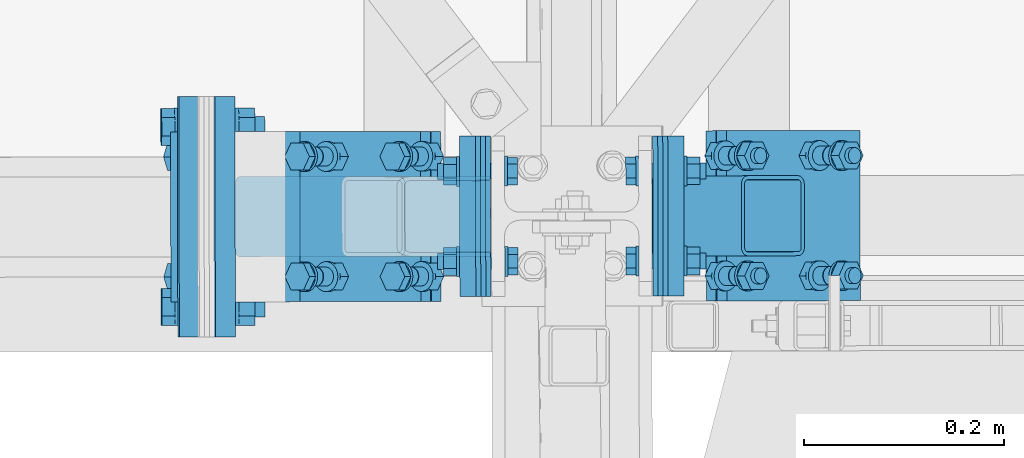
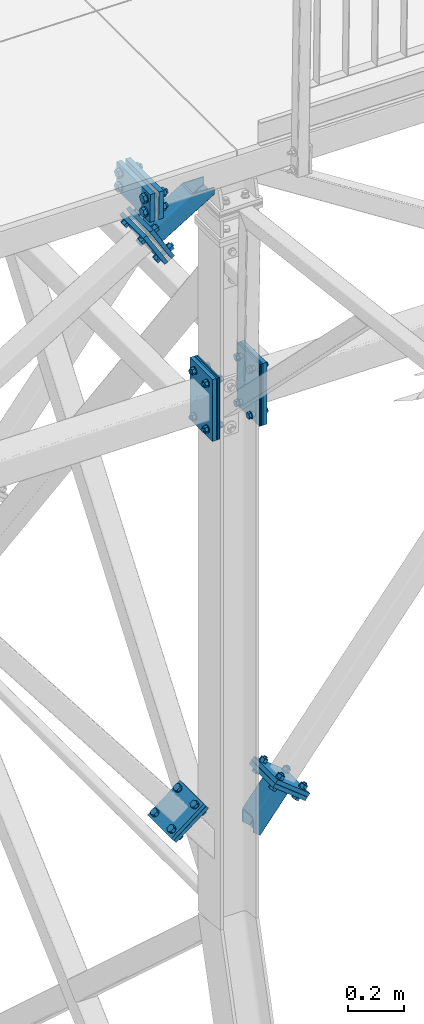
# One storey, part 103 of 169: 18 discrete accessories, 6 mechanical fasteners, 12 elements without a shape of their own.
"""IFC2X3 building model written with IfcOpenShell, lengths in millimetres."""

from ifc_helpers import new_model, si_unit, frame, origin_with_axes, origin_2d_with_axis, place, context, subcontext, project, spatial, polyline, rectangle, hollow_rectangle, circle, outline, extrude, boolean, clip, halfspace, source, transform, mapped, material, type_object, element, aggregate, save


model = new_model("IFC2X3")

# Units and contexts
model_context = context("Model", 3, precision=1e-05, world=origin_with_axes())
body_context = subcontext(model_context, "Body", "Model", "MODEL_VIEW")
ifc_project = project(units=[si_unit("LENGTHUNIT", "METRE", prefix="MILLI"), si_unit("AREAUNIT", "SQUARE_METRE"), si_unit("VOLUMEUNIT", "CUBIC_METRE"), si_unit("MASSUNIT", "GRAM", prefix="KILO"), si_unit("TIMEUNIT", "SECOND"), si_unit("PLANEANGLEUNIT", "RADIAN"), si_unit("SOLIDANGLEUNIT", "STERADIAN"), si_unit("THERMODYNAMICTEMPERATUREUNIT", "DEGREE_CELSIUS"), si_unit("LUMINOUSINTENSITYUNIT", "LUMEN")], contexts=[model_context])

# Site, building, storey
site_placement = place(None, origin_with_axes())
site = spatial("IfcSite", under=ifc_project, at=site_placement, Name="Undefined", CompositionType="ELEMENT")
building_placement = place(site_placement, origin_with_axes())
building = spatial("IfcBuilding", under=site, at=building_placement, Name="Undefined", CompositionType="ELEMENT")
storey_placement = place(building_placement, origin_with_axes())
storey = spatial("IfcBuildingStorey", under=building, at=storey_placement, Name="Undefined", CompositionType="ELEMENT", Elevation=0.0)

# Assembly, discrete accessory
assembly_1_placement = place(storey_placement, origin_with_axes())
assembly_1 = element("IfcElementAssembly", 1, at=assembly_1_placement, inside=storey, Name="Steel Assembly", AssemblyPlace="NOTDEFINED", PredefinedType="RIGID_FRAME")
ifc_material_1 = material(Name="STEEL/S355")
discrete_accessory_type_1 = type_object("IfcDiscreteAccessoryType", Name="BLACHA")
discrete_accessory_1_placement = place(assembly_1_placement, frame((6206.63601539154, 196.588699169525, 12874.9151454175), z_axis=(0.99999826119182, 0.0018648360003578, 1.65999988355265e-07), x_axis=(0.00186484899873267, -0.999998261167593, 4.28757666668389e-08)))
discrete_accessory_1 = element("IfcDiscreteAccessory", 2, at=discrete_accessory_1_placement, type_object=discrete_accessory_type_1, material=ifc_material_1, Name="BLACHA", ObjectType="BL5*270", context=body_context, shape_type="SweptSolid", body=[
    extrude(outline(polyline([(1.22781784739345e-10, 135.000000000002), (159.999999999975, 134.999999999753), (159.99999999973, -135.000000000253), (-1.23236532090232e-10, -135.000000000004), (1.22781784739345e-10, 135.000000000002)])), frame((6.80888809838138e-19, -2.87858853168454e-21, -2.49999999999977), z_axis=(0.0, 0.0, 1.0), x_axis=(1.0, 0.0, 0.0)), (0.0, 0.0, 1.0), 5.0),
])
aggregate(assembly_1, [discrete_accessory_1])

assembly_2_placement = place(storey_placement, origin_with_axes())
assembly_2 = element("IfcElementAssembly", 3, at=assembly_2_placement, inside=storey, Name="Steel Assembly", AssemblyPlace="NOTDEFINED", PredefinedType="RIGID_FRAME")
discrete_accessory_2_placement = place(assembly_2_placement, frame((6211.6360066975, 196.598023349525, 12874.9151462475), z_axis=(0.99999826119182, 0.0018648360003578, 1.65999988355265e-07), x_axis=(0.00186484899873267, -0.999998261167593, 4.28757666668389e-08)))
discrete_accessory_2 = element("IfcDiscreteAccessory", 4, at=discrete_accessory_2_placement, type_object=discrete_accessory_type_1, material=ifc_material_1, Name="BLACHA", ObjectType="BL5*270", context=body_context, shape_type="SweptSolid", body=[
    extrude(outline(polyline([(1.22781784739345e-10, 135.000000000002), (159.999999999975, 134.999999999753), (159.99999999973, -135.000000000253), (-1.23236532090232e-10, -135.000000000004), (1.22781784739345e-10, 135.000000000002)])), frame((6.80888809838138e-19, -2.87858853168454e-21, -2.49999999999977), z_axis=(0.0, 0.0, 1.0), x_axis=(1.0, 0.0, 0.0)), (0.0, 0.0, 1.0), 5.0),
])
aggregate(assembly_2, [discrete_accessory_2])

assembly_3_placement = place(storey_placement, origin_with_axes())
assembly_3 = element("IfcElementAssembly", 5, at=assembly_3_placement, inside=storey, Name="Steel Assembly", AssemblyPlace="NOTDEFINED", PredefinedType="RIGID_FRAME")
discrete_accessory_3_placement = place(assembly_3_placement, frame((6216.63599800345, 196.607347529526, 12874.9151470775), z_axis=(0.99999826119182, 0.0018648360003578, 1.65999988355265e-07), x_axis=(0.00186484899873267, -0.999998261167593, 4.28757666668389e-08)))
discrete_accessory_3 = element("IfcDiscreteAccessory", 6, at=discrete_accessory_3_placement, type_object=discrete_accessory_type_1, material=ifc_material_1, Name="BLACHA", ObjectType="BL5*270", context=body_context, shape_type="SweptSolid", body=[
    extrude(outline(polyline([(1.22781784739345e-10, 135.000000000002), (159.999999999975, 134.999999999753), (159.99999999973, -135.000000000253), (-1.23236532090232e-10, -135.000000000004), (1.22781784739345e-10, 135.000000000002)])), frame((6.80888809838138e-19, -2.87858853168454e-21, -2.49999999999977), z_axis=(0.0, 0.0, 1.0), x_axis=(1.0, 0.0, 0.0)), (0.0, 0.0, 1.0), 5.0),
])
aggregate(assembly_3, [discrete_accessory_3])

assembly_4_placement = place(storey_placement, origin_with_axes())
assembly_4 = element("IfcElementAssembly", 7, at=assembly_4_placement, inside=storey, Name="Steel Assembly", AssemblyPlace="NOTDEFINED", PredefinedType="RIGID_FRAME")
discrete_accessory_4_placement = place(assembly_4_placement, frame((6227.13597974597, 196.626928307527, 12874.9151488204), z_axis=(0.99999826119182, 0.0018648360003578, 1.65999988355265e-07), x_axis=(0.00186484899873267, -0.999998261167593, 4.28757666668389e-08)))
discrete_accessory_4 = element("IfcDiscreteAccessory", 8, at=discrete_accessory_4_placement, type_object=discrete_accessory_type_1, material=ifc_material_1, Name="BLACHA", ObjectType="BL16*270", context=body_context, shape_type="SweptSolid", body=[
    extrude(outline(polyline([(1.22781784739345e-10, 135.000000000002), (159.999999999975, 134.999999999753), (159.99999999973, -135.000000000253), (-1.23236532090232e-10, -135.000000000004), (1.22781784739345e-10, 135.000000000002)])), frame((4.54778590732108e-13, 0.0, -8.0), z_axis=(0.0, 0.0, 1.0), x_axis=(1.0, 0.0, 0.0)), (0.0, 0.0, 1.0), 16.0),
])

assembly_5_placement = place(storey_placement, origin_with_axes())
assembly_5 = element("IfcElementAssembly", 9, at=assembly_5_placement, inside=storey, Name="Steel Assembly", AssemblyPlace="NOTDEFINED", PredefinedType="RIGID_FRAME")
discrete_accessory_5_placement = place(assembly_5_placement, frame((6406.34479713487, 116.96105180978, 11065.3972304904), z_axis=(0.00186484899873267, -0.999998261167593, 4.28757666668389e-08), x_axis=(-0.784458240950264, -0.00146288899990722, 0.620179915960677)))
discrete_accessory_5 = element("IfcDiscreteAccessory", 10, at=discrete_accessory_5_placement, type_object=discrete_accessory_type_1, material=ifc_material_1, Name="BLACHA", ObjectType="BL16*170", context=body_context, shape_type="SweptSolid", body=[
    extrude(rectangle(XDim=16.0, YDim=170.0, at=origin_2d_with_axis()), frame((169.999999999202, 0.0, -3.62691994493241e-12), z_axis=(-1.0, -3.46944695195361e-18, -1.38777878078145e-17), x_axis=(1.73472347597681e-18, -1.0, 0.0)), (0.0, 0.0, 1.0), 170.0),
])

assembly_6_placement = place(storey_placement, origin_with_axes())
assembly_6 = element("IfcElementAssembly", 11, at=assembly_6_placement, inside=storey, Name="Steel Assembly", AssemblyPlace="NOTDEFINED", PredefinedType="RIGID_FRAME")
discrete_accessory_6_placement = place(assembly_6_placement, frame((6395.80175681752, 116.941390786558, 11052.0614172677), z_axis=(0.00186484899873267, -0.999998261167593, 4.28757666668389e-08), x_axis=(-0.784458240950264, -0.00146288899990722, 0.620179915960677)))
discrete_accessory_6 = element("IfcDiscreteAccessory", 12, at=discrete_accessory_6_placement, type_object=discrete_accessory_type_1, material=ifc_material_1, Name="BLACHA", ObjectType="BL16*170", context=body_context, shape_type="SweptSolid", body=[
    extrude(rectangle(XDim=16.0, YDim=170.0, at=origin_2d_with_axis()), frame((169.999999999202, 0.0, -3.62691994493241e-12), z_axis=(-1.0, -3.46944695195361e-18, -1.38777878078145e-17), x_axis=(1.73472347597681e-18, -1.0, 0.0)), (0.0, 0.0, 1.0), 170.0),
])

assembly_7_placement = place(storey_placement, origin_with_axes())
assembly_7 = element("IfcElementAssembly", 13, at=assembly_7_placement, inside=storey, Name="Steel Assembly", AssemblyPlace="NOTDEFINED", PredefinedType="RIGID_FRAME")
discrete_accessory_7_placement = place(assembly_7_placement, frame((5756.89954888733, 115.749905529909, 13753.7538420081), z_axis=(-0.0018648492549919, 0.999998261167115, -4.2996762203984e-08), x_axis=(0.518820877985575, 0.000967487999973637, -0.854882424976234)))
discrete_accessory_7 = element("IfcDiscreteAccessory", 14, at=discrete_accessory_7_placement, type_object=discrete_accessory_type_1, material=ifc_material_1, Name="BLACHA", ObjectType="BL16*170", context=body_context, shape_type="SweptSolid", body=[
    extrude(rectangle(XDim=16.0, YDim=170.0, at=origin_2d_with_axis()), frame((169.999999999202, 0.0, -3.62691994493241e-12), z_axis=(-1.0, -3.46944695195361e-18, -1.38777878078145e-17), x_axis=(1.73472347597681e-18, -1.0, 0.0)), (0.0, 0.0, 1.0), 170.0),
])

assembly_8_placement = place(storey_placement, origin_with_axes())
assembly_8 = element("IfcElementAssembly", 15, at=assembly_8_placement, inside=storey, Name="Steel Assembly", AssemblyPlace="NOTDEFINED", PredefinedType="RIGID_FRAME")
discrete_accessory_8_placement = place(assembly_8_placement, frame((5729.54335887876, 115.698889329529, 13737.1515450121), z_axis=(-0.0018648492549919, 0.999998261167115, -4.2996762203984e-08), x_axis=(0.518820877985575, 0.000967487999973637, -0.854882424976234)))
discrete_accessory_8 = element("IfcDiscreteAccessory", 16, at=discrete_accessory_8_placement, type_object=discrete_accessory_type_1, material=ifc_material_1, Name="BLACHA", ObjectType="BL16*170", context=body_context, shape_type="SweptSolid", body=[
    extrude(rectangle(XDim=16.0, YDim=170.0, at=origin_2d_with_axis()), frame((169.999999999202, 0.0, -3.62691994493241e-12), z_axis=(-1.0, -3.46944695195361e-18, -1.38777878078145e-17), x_axis=(1.73472347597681e-18, -1.0, 0.0)), (0.0, 0.0, 1.0), 170.0),
])

# Discrete accessory
discrete_accessory_9_placement = place(assembly_4_placement, frame((5776.13405369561, 235.785989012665, 13880.830869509), z_axis=(0.9999174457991, 0.00186469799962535, -0.0127131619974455), x_axis=(0.00186484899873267, -0.999998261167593, 4.28757666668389e-08)))
discrete_accessory_9 = element("IfcDiscreteAccessory", 17, at=discrete_accessory_9_placement, type_object=discrete_accessory_type_1, material=ifc_material_1, Name="BLACHA", ObjectType="BL20*120", context=body_context, shape_type="SweptSolid", body=[
    extrude(outline(polyline([(5.3567816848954e-11, 59.9999999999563), (239.999999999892, 59.9999999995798), (239.999999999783, -60.0000000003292), (-5.35749222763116e-11, -59.9999999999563), (5.3567816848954e-11, 59.9999999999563)])), frame((-4.54746113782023e-13, 1.81900675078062e-12, -9.99999999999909), z_axis=(0.0, 0.0, 1.0), x_axis=(1.0, 0.0, 0.0)), (0.0, 0.0, 1.0), 20.0),
])

discrete_accessory_10_placement = place(assembly_8_placement, frame((5740.13702565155, 235.718857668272, 13881.2885433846), z_axis=(0.9999174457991, 0.00186469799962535, -0.0127131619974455), x_axis=(0.00186484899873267, -0.999998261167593, 4.28757666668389e-08)))
discrete_accessory_10 = element("IfcDiscreteAccessory", 18, at=discrete_accessory_10_placement, type_object=discrete_accessory_type_1, material=ifc_material_1, Name="BLACHA", ObjectType="BL20*120", context=body_context, shape_type="SweptSolid", body=[
    extrude(outline(polyline([(5.3567816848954e-11, 59.9999999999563), (239.999999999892, 59.9999999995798), (239.999999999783, -60.0000000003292), (-5.35749222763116e-11, -59.9999999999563), (5.3567816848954e-11, 59.9999999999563)])), frame((-4.54746113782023e-13, 1.81900675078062e-12, -9.99999999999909), z_axis=(0.0, 0.0, 1.0), x_axis=(1.0, 0.0, 0.0)), (0.0, 0.0, 1.0), 20.0),
])

# Assembly, discrete accessory
assembly_9_placement = place(storey_placement, origin_with_axes())
assembly_9 = element("IfcElementAssembly", 19, at=assembly_9_placement, inside=storey, Name="Steel Assembly", AssemblyPlace="NOTDEFINED", PredefinedType="RIGID_FRAME")
discrete_accessory_11_placement = place(assembly_9_placement, frame((6039.63630530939, 196.27726697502, 12877.7631333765), z_axis=(-0.99999826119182, -0.00186483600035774, -1.66000011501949e-07), x_axis=(0.00186484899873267, -0.999998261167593, 4.28757666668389e-08)))
discrete_accessory_11 = element("IfcDiscreteAccessory", 20, at=discrete_accessory_11_placement, type_object=discrete_accessory_type_1, material=ifc_material_1, Name="BLACHA", ObjectType="BL5*270", context=body_context, shape_type="SweptSolid", body=[
    extrude(outline(polyline([(-1.23236532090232e-10, -135.000000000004), (1.22781784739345e-10, 135.000000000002), (159.999999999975, 134.999999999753), (159.99999999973, -135.000000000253), (-1.23236532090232e-10, -135.000000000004)])), frame((6.80888809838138e-19, -2.87858853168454e-21, -2.49999999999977), z_axis=(0.0, 0.0, 1.0), x_axis=(1.0, 0.0, 0.0)), (0.0, 0.0, 1.0), 5.0),
])
aggregate(assembly_9, [discrete_accessory_11])

assembly_10_placement = place(storey_placement, origin_with_axes())
assembly_10 = element("IfcElementAssembly", 21, at=assembly_10_placement, inside=storey, Name="Steel Assembly", AssemblyPlace="NOTDEFINED", PredefinedType="RIGID_FRAME")
discrete_accessory_12_placement = place(assembly_10_placement, frame((6034.63631400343, 196.267942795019, 12877.7631325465), z_axis=(-0.99999826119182, -0.00186483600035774, -1.66000011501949e-07), x_axis=(0.00186484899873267, -0.999998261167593, 4.28757666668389e-08)))
discrete_accessory_12 = element("IfcDiscreteAccessory", 22, at=discrete_accessory_12_placement, type_object=discrete_accessory_type_1, material=ifc_material_1, Name="BLACHA", ObjectType="BL5*270", context=body_context, shape_type="SweptSolid", body=[
    extrude(outline(polyline([(-1.23236532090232e-10, -135.000000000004), (1.22781784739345e-10, 135.000000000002), (159.999999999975, 134.999999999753), (159.99999999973, -135.000000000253), (-1.23236532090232e-10, -135.000000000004)])), frame((6.80888809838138e-19, -2.87858853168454e-21, -2.49999999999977), z_axis=(0.0, 0.0, 1.0), x_axis=(1.0, 0.0, 0.0)), (0.0, 0.0, 1.0), 5.0),
])
aggregate(assembly_10, [discrete_accessory_12])

assembly_11_placement = place(storey_placement, origin_with_axes())
assembly_11 = element("IfcElementAssembly", 23, at=assembly_11_placement, inside=storey, Name="Steel Assembly", AssemblyPlace="NOTDEFINED", PredefinedType="RIGID_FRAME")
discrete_accessory_13_placement = place(assembly_11_placement, frame((6029.63632269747, 196.258618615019, 12877.7631317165), z_axis=(-0.99999826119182, -0.00186483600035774, -1.66000011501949e-07), x_axis=(0.00186484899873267, -0.999998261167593, 4.28757666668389e-08)))
discrete_accessory_13 = element("IfcDiscreteAccessory", 24, at=discrete_accessory_13_placement, type_object=discrete_accessory_type_1, material=ifc_material_1, Name="BLACHA", ObjectType="BL5*270", context=body_context, shape_type="SweptSolid", body=[
    extrude(outline(polyline([(-1.23236532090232e-10, -135.000000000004), (1.22781784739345e-10, 135.000000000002), (159.999999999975, 134.999999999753), (159.99999999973, -135.000000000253), (-1.23236532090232e-10, -135.000000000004)])), frame((6.80888809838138e-19, -2.87858853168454e-21, -2.49999999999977), z_axis=(0.0, 0.0, 1.0), x_axis=(1.0, 0.0, 0.0)), (0.0, 0.0, 1.0), 5.0),
])
aggregate(assembly_11, [discrete_accessory_13])

# Discrete accessory
discrete_accessory_14_placement = place(assembly_8_placement, frame((6019.13634095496, 196.239037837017, 12877.7631299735), z_axis=(-0.99999826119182, -0.00186483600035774, -1.66000011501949e-07), x_axis=(0.00186484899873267, -0.999998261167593, 4.28757666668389e-08)))
discrete_accessory_14 = element("IfcDiscreteAccessory", 25, at=discrete_accessory_14_placement, type_object=discrete_accessory_type_1, material=ifc_material_1, Name="BLACHA", ObjectType="BL16*270", context=body_context, shape_type="SweptSolid", body=[
    extrude(outline(polyline([(-1.23236532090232e-10, -135.000000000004), (1.22781784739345e-10, 135.000000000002), (159.999999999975, 134.999999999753), (159.99999999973, -135.000000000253), (-1.23236532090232e-10, -135.000000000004)])), frame((4.54778590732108e-13, 0.0, -8.0), z_axis=(0.0, 0.0, 1.0), x_axis=(1.0, 0.0, 0.0)), (0.0, 0.0, 1.0), 16.0),
])

discrete_accessory_15_placement = place(assembly_6_placement, frame((5987.68043471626, 116.180281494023, 11159.8752406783), z_axis=(-0.0018648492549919, 0.999998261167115, -4.2996762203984e-08), x_axis=(-0.792353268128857, -0.00147761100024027, -0.610060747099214)))
discrete_accessory_15 = element("IfcDiscreteAccessory", 26, at=discrete_accessory_15_placement, type_object=discrete_accessory_type_1, material=ifc_material_1, Name="BLACHA", ObjectType="BL16*170", context=body_context, shape_type="SweptSolid", body=[
    extrude(rectangle(XDim=16.0, YDim=170.0, at=origin_2d_with_axis()), frame((169.999999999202, 0.0, -3.62691994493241e-12), z_axis=(-1.0, -3.46944695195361e-18, -1.38777878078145e-17), x_axis=(1.73472347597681e-18, -1.0, 0.0)), (0.0, 0.0, 1.0), 170.0),
])

# Assembly, discrete accessory
assembly_12_placement = place(storey_placement, origin_with_axes())
assembly_12 = element("IfcElementAssembly", 27, at=assembly_12_placement, inside=storey, Name="Steel Assembly", AssemblyPlace="NOTDEFINED", PredefinedType="RIGID_FRAME")
discrete_accessory_16_placement = place(assembly_12_placement, frame((5977.30942011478, 116.160941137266, 11173.3452697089), z_axis=(-0.0018648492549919, 0.999998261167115, -4.2996762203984e-08), x_axis=(-0.792353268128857, -0.00147761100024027, -0.610060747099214)))
discrete_accessory_16 = element("IfcDiscreteAccessory", 28, at=discrete_accessory_16_placement, type_object=discrete_accessory_type_1, material=ifc_material_1, Name="BLACHA", ObjectType="BL16*170", context=body_context, shape_type="SweptSolid", body=[
    extrude(rectangle(XDim=16.0, YDim=170.0, at=origin_2d_with_axis()), frame((169.999999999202, 0.0, -3.62691994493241e-12), z_axis=(-1.0, -3.46944695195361e-18, -1.38777878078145e-17), x_axis=(1.73472347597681e-18, -1.0, 0.0)), (0.0, 0.0, 1.0), 170.0),
])
aggregate(assembly_12, [discrete_accessory_16])

# Discrete accessory
discrete_accessory_type_2 = type_object("IfcDiscreteAccessoryType", Name="BEAM")
discrete_accessory_17_placement = place(assembly_6_placement, frame((6123.28719120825, 116.433194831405, 10844.4167696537), z_axis=(-0.784458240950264, -0.00146288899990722, 0.620179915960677), x_axis=(0.620178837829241, 0.00115653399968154, 0.784459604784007)))
discrete_accessory_17 = element("IfcDiscreteAccessory", 29, at=discrete_accessory_17_placement, type_object=discrete_accessory_type_2, material=ifc_material_1, Name="BEAM", ObjectType="K80/4", context=body_context, shape_type="Clipping", body=[
    clip(clip(extrude(hollow_rectangle(XDim=80.0, YDim=80.0, WallThickness=4.0, InnerFilletRadius=4.0, OuterFilletRadius=8.0, at=origin_2d_with_axis()), frame((323.897192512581, 4.01426750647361e-17, 6.64141120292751e-13), z_axis=(-1.0, -3.46944695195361e-18, -1.38777878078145e-17), x_axis=(1.73472347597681e-18, -1.0, 0.0)), (0.0, 0.0, 1.0), 194.9), halfspace(frame((323.897192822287, 1.7002164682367e-05, -999.999999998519), z_axis=(-1.0, -3.46944695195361e-18, -1.38777878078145e-17), x_axis=(0.0, 1.0, 0.0)), True)), halfspace(frame((834.071475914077, -9.51096781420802e-06, 557.423286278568), z_axis=(0.620180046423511, 1.285070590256e-08, -0.784459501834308), x_axis=(0.0, 1.0, 0.0)), True)),
])

discrete_accessory_18_placement = place(assembly_7_placement, frame((6122.86199690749, 116.432376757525, 13876.4252359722), z_axis=(0.518820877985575, 0.000967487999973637, -0.854882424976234), x_axis=(-0.854880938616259, -0.00159424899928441, -0.51882177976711)))
discrete_accessory_18 = element("IfcDiscreteAccessory", 30, at=discrete_accessory_18_placement, type_object=discrete_accessory_type_2, material=ifc_material_1, Name="BEAM", ObjectType="K80/4", context=body_context, shape_type="CSG", body=[
    boolean("DIFFERENCE", boolean("DIFFERENCE", boolean("DIFFERENCE", boolean("DIFFERENCE", extrude(hollow_rectangle(XDim=80.0, YDim=80.0, WallThickness=4.0, InnerFilletRadius=4.0, OuterFilletRadius=8.0, at=origin_2d_with_axis()), frame((368.500000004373, -4.54824966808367e-13, -4.09117184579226e-14), z_axis=(-1.0, -3.46944695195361e-18, -1.38777878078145e-17), x_axis=(1.73472347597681e-18, -1.0, 0.0)), (0.0, 0.0, 1.0), 368.5), extrude(outline(polyline([(0.0, 0.0), (160.000000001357, 1.36424205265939e-10), (139.56724545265, 134.714065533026), (20.4327468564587, 134.714065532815), (0.0, 0.0)])), frame((168.949937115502, -79.9998951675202, 124.061089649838), z_axis=(-0.85708521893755, -2.94620732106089e-10, 0.515174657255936), x_axis=(0.0, 1.0, 0.0)), (0.0, 0.0, 1.0), 100.0)), extrude(rectangle(XDim=82.0, YDim=82.0, at=origin_2d_with_axis()), frame((-889.337749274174, 4.72091140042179e-07, 1809.55195885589), z_axis=(0.441085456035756, -2.30656564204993e-10, -0.897465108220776), x_axis=(1.73472347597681e-18, -1.0, 0.0)), (0.0, 0.0, 1.0), 4032.58)), extrude(rectangle(XDim=122.0, YDim=122.0, at=origin_2d_with_axis()), frame((-1706.47607599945, -2.17682468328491e-07, 1065.56602072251), z_axis=(0.848217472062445, 4.64185049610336e-11, -0.529648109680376), x_axis=(0.529648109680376, -3.80183087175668e-10, 0.848217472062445)), (0.0, 0.0, 1.0), 4023.68)), halfspace(frame((368.500000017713, 1.07320374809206e-10, -39.9999999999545), z_axis=(-1.0, -3.46944695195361e-18, -1.38777878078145e-17), x_axis=(0.0, 1.0, 0.0)), True)),
])

# Mechanical fastener
ifc_material_2 = material(Name="Undefined")
discrete_accessory_type_3 = type_object("IfcDiscreteAccessoryType", Name="Bolt assembly")
shared_shape_1 = source(origin_with_axes(), body_context, "Body", "SweptSolid", [
    extrude(circle(Radius=11.5, at=origin_2d_with_axis()), frame((0.0, -27.9000000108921, 0.0), z_axis=(0.0, 1.0, 0.0), x_axis=(1.0, 0.0, 0.0)), (0.0, 0.0, 1.0), 20.0),
    extrude(circle(Radius=11.5, at=origin_2d_with_axis()), frame((0.0, 7.89999997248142, 0.0), z_axis=(0.0, 1.0, 0.0), x_axis=(1.0, 0.0, 0.0)), (0.0, 0.0, 1.0), 20.1),
    extrude(circle(Radius=11.5, at=origin_2d_with_axis()), frame((0.0, 1.99999997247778, 0.0), z_axis=(0.0, 1.0, 0.0), x_axis=(1.0, 0.0, 0.0)), (0.0, 0.0, 1.0), 5.0),
    extrude(circle(Radius=11.5, at=origin_2d_with_axis()), frame((0.0, -3.00000607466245, 0.0), z_axis=(0.0, 1.0, 0.0), x_axis=(1.0, 0.0, 0.0)), (0.0, 0.0, 1.0), 5.0),
    extrude(circle(Radius=11.5, at=origin_2d_with_axis()), frame((0.0, -8.00000000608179, 0.0), z_axis=(0.0, 1.0, 0.0), x_axis=(1.0, 0.0, 0.0)), (0.0, 0.0, 1.0), 5.0),
    extrude(outline(polyline([(18.47520861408, 0.0), (9.23760430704, 16.0000000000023), (-9.23760430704, 16.0000000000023), (-18.47520861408, 0.0), (-9.23760430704, -16.0000000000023), (9.23760430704, -16.0000000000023), (18.47520861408, 0.0)])), frame((0.0, -45.0000000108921, 0.0), z_axis=(0.0, 1.0, 0.0), x_axis=(1.0, 0.0, 0.0)), (0.0, 0.0, 1.0), 13.0),
    extrude(circle(Radius=10.0, at=origin_2d_with_axis()), frame((0.0, -32.0000000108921, 0.0), z_axis=(0.0, 1.0, 0.0), x_axis=(1.0, 0.0, 0.0)), (0.0, 0.0, 1.0), 90.0),
    extrude(circle(Radius=18.5, at=origin_2d_with_axis()), frame((0.0, -32.0000000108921, 0.0), z_axis=(0.0, 1.0, 0.0), x_axis=(1.0, 0.0, 0.0)), (0.0, 0.0, 1.0), 4.0),
    extrude(circle(Radius=18.5, at=origin_2d_with_axis()), frame((0.0, 27.9999999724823, 0.0), z_axis=(0.0, 1.0, 0.0), x_axis=(1.0, 0.0, 0.0)), (0.0, 0.0, 1.0), 4.0),
    extrude(outline(polyline([(18.47520861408, 0.0), (9.23760430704, 16.0000000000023), (-9.23760430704, 16.0000000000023), (-18.47520861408, 0.0), (-9.23760430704, -16.0000000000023), (9.23760430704, -16.0000000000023), (18.47520861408, 0.0)])), frame((0.0, 31.9999999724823, 0.0), z_axis=(0.0, 1.0, 0.0), x_axis=(1.0, 0.0, 0.0)), (0.0, 0.0, 1.0), 16.0),
])
mechanical_fastener_1_placement = place(assembly_4_placement, frame((5758.47121249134, 55.7527374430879, 13881.0597141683), z_axis=(-0.012713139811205, -2.37511238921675e-05, -0.999919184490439), x_axis=(-0.0018648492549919, 0.999998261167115, -4.2996762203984e-08)))
mechanical_fastener_1 = element("IfcMechanicalFastener", 31, at=mechanical_fastener_1_placement, type_object=discrete_accessory_type_3, material=ifc_material_2, Name="Bolt assembly", NominalDiameter=20.0, NominalLength=90.0, context=body_context, shape_type="MappedRepresentation", body=[
    mapped(shared_shape_1, transform((-29.9999999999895, 3.63797880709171e-12, -29.9999999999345))),
    mapped(shared_shape_1, transform((-30.0000000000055, 9.09494701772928e-13, 29.9999999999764))),
    mapped(shared_shape_1, transform((149.999999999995, -9.09494701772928e-12, -30.0000000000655))),
    mapped(shared_shape_1, transform((149.99999999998, -1.18234311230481e-11, 29.9999999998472))),
])

shared_shape_2 = source(origin_with_axes(), body_context, "Body", "SweptSolid", [
    extrude(circle(Radius=9.5, at=origin_2d_with_axis()), frame((0.0, -23.9000000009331, 0.0), z_axis=(0.0, 1.0, 0.0), x_axis=(1.0, 0.0, 0.0)), (0.0, 0.0, 1.0), 16.0),
    extrude(circle(Radius=9.5, at=origin_2d_with_axis()), frame((0.0, 7.89999997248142, 0.0), z_axis=(0.0, 1.0, 0.0), x_axis=(1.0, 0.0, 0.0)), (0.0, 0.0, 1.0), 16.1),
    extrude(circle(Radius=9.5, at=origin_2d_with_axis()), frame((0.0, 1.99999997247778, 0.0), z_axis=(0.0, 1.0, 0.0), x_axis=(1.0, 0.0, 0.0)), (0.0, 0.0, 1.0), 5.0),
    extrude(circle(Radius=9.5, at=origin_2d_with_axis()), frame((0.0, -3.00000607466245, 0.0), z_axis=(0.0, 1.0, 0.0), x_axis=(1.0, 0.0, 0.0)), (0.0, 0.0, 1.0), 5.0),
    extrude(circle(Radius=9.5, at=origin_2d_with_axis()), frame((0.0, -8.00000000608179, 0.0), z_axis=(0.0, 1.0, 0.0), x_axis=(1.0, 0.0, 0.0)), (0.0, 0.0, 1.0), 5.0),
    extrude(outline(polyline([(15.58845726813, 0.0), (7.794228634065, 13.5000000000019), (-7.794228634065, 13.5000000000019), (-15.58845726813, 0.0), (-7.794228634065, -13.5000000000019), (7.794228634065, -13.5000000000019), (15.58845726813, 0.0)])), frame((0.0, -38.0000000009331, 0.0), z_axis=(0.0, 1.0, 0.0), x_axis=(1.0, 0.0, 0.0)), (0.0, 0.0, 1.0), 10.0),
    extrude(circle(Radius=8.0, at=origin_2d_with_axis()), frame((0.0, -28.0000000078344, 0.0), z_axis=(0.0, 1.0, 0.0), x_axis=(1.0, 0.0, 0.0)), (0.0, 0.0, 1.0), 75.0),
    extrude(circle(Radius=15.0, at=origin_2d_with_axis()), frame((0.0, -28.0000000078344, 0.0), z_axis=(0.0, 1.0, 0.0), x_axis=(1.0, 0.0, 0.0)), (0.0, 0.0, 1.0), 4.0),
    extrude(circle(Radius=15.0, at=origin_2d_with_axis()), frame((0.0, 24.0000000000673, 0.0), z_axis=(0.0, 1.0, 0.0), x_axis=(1.0, 0.0, 0.0)), (0.0, 0.0, 1.0), 4.0),
    extrude(outline(polyline([(15.58845726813, 0.0), (7.794228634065, 13.5000000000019), (-7.794228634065, 13.5000000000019), (-15.58845726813, 0.0), (-7.794228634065, -13.5000000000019), (7.794228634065, -13.5000000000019), (15.58845726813, 0.0)])), frame((0.0, 27.9999999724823, 0.0), z_axis=(0.0, 1.0, 0.0), x_axis=(1.0, 0.0, 0.0)), (0.0, 0.0, 1.0), 13.0),
])
mechanical_fastener_2_placement = place(assembly_7_placement, frame((5808.07406362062, 115.845333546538, 13638.5923904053), z_axis=(-0.0018648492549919, 0.999998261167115, -4.2996762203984e-08), x_axis=(-0.518820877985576, -0.000967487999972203, 0.854882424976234)))
mechanical_fastener_2 = element("IfcMechanicalFastener", 32, at=mechanical_fastener_2_placement, type_object=discrete_accessory_type_3, material=ifc_material_2, Name="Bolt assembly", NominalDiameter=16.0, NominalLength=75.0, context=body_context, shape_type="MappedRepresentation", body=[
    mapped(shared_shape_2, transform((-20.0000000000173, 3.45607986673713e-11, -60.0000000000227))),
    mapped(shared_shape_2, transform((-19.9999999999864, -5.45696821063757e-12, 59.9999999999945))),
    mapped(shared_shape_2, transform((99.9999999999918, -5.82076609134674e-11, -59.9999999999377))),
    mapped(shared_shape_2, transform((100.000000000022, -9.64064383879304e-11, 60.00000000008))),
])

aggregate(assembly_7, [mechanical_fastener_2, discrete_accessory_7, discrete_accessory_18])

shared_shape_3 = source(origin_with_axes(), body_context, "Body", "SweptSolid", [
    extrude(circle(Radius=9.5, at=origin_2d_with_axis()), frame((0.0, -22.3999994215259, 0.0), z_axis=(0.0, 1.0, 0.0), x_axis=(1.0, 0.0, 0.0)), (0.0, 0.0, 1.0), 13.0),
    extrude(circle(Radius=9.5, at=origin_2d_with_axis()), frame((0.0, 6.39999999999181, 0.0), z_axis=(0.0, 1.0, 0.0), x_axis=(1.0, 0.0, 0.0)), (0.0, 0.0, 1.0), 16.1),
    extrude(circle(Radius=9.5, at=origin_2d_with_axis()), frame((0.0, 1.49999999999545, 0.0), z_axis=(0.0, 1.0, 0.0), x_axis=(1.0, 0.0, 0.0)), (0.0, 0.0, 1.0), 5.0),
    extrude(circle(Radius=9.5, at=origin_2d_with_axis()), frame((0.0, -3.50000000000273, 0.0), z_axis=(0.0, 1.0, 0.0), x_axis=(1.0, 0.0, 0.0)), (0.0, 0.0, 1.0), 5.0),
    extrude(circle(Radius=9.5, at=origin_2d_with_axis()), frame((0.0, -8.50000000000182, 0.0), z_axis=(0.0, 1.0, 0.0), x_axis=(1.0, 0.0, 0.0)), (0.0, 0.0, 1.0), 5.0),
    extrude(outline(polyline([(13.85640646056, 0.0), (6.92820323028, 12.0000000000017), (-6.92820323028, 12.0000000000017), (-13.85640646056, 0.0), (-6.92820323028, -12.0000000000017), (6.92820323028, -12.0000000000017), (13.85640646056, 0.0)])), frame((0.0, -35.4999994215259, 0.0), z_axis=(0.0, 1.0, 0.0), x_axis=(1.0, 0.0, 0.0)), (0.0, 0.0, 1.0), 10.0),
    extrude(circle(Radius=8.0, at=origin_2d_with_axis()), frame((0.0, -25.4999994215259, 0.0), z_axis=(0.0, 1.0, 0.0), x_axis=(1.0, 0.0, 0.0)), (0.0, 0.0, 1.0), 70.0),
    extrude(circle(Radius=15.0, at=origin_2d_with_axis()), frame((0.0, -25.4999994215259, 0.0), z_axis=(0.0, 1.0, 0.0), x_axis=(1.0, 0.0, 0.0)), (0.0, 0.0, 1.0), 3.0),
    extrude(circle(Radius=15.0, at=origin_2d_with_axis()), frame((0.0, 22.49999999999, 0.0), z_axis=(0.0, 1.0, 0.0), x_axis=(1.0, 0.0, 0.0)), (0.0, 0.0, 1.0), 3.0),
    extrude(outline(polyline([(13.85640646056, 0.0), (6.92820323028, 12.0000000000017), (-6.92820323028, 12.0000000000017), (-13.85640646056, 0.0), (-6.92820323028, -12.0000000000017), (6.92820323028, -12.0000000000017), (13.85640646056, 0.0)])), frame((0.0, 25.49999999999, 0.0), z_axis=(0.0, 1.0, 0.0), x_axis=(1.0, 0.0, 0.0)), (0.0, 0.0, 1.0), 13.0),
])
mechanical_fastener_3_placement = place(assembly_4_placement, frame((6212.8970819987, 56.6001316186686, 12874.9151524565), z_axis=(-2.54700353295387e-10, 0.0, -1.0), x_axis=(-0.0018648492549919, 0.999998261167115, -4.2996762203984e-08)))
mechanical_fastener_3 = element("IfcMechanicalFastener", 33, at=mechanical_fastener_3_placement, type_object=discrete_accessory_type_3, material=ifc_material_2, Name="Bolt assembly", NominalDiameter=16.0, NominalLength=70.0, context=body_context, shape_type="MappedRepresentation", body=[
    mapped(shared_shape_3, transform((15.0000000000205, 6.3664629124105e-12, -99.9999999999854))),
    mapped(shared_shape_3, transform((14.9999999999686, -2.00088834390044e-11, 100.00000000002))),
    mapped(shared_shape_3, transform((104.999999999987, -3.45607986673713e-11, -99.9999999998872))),
    mapped(shared_shape_3, transform((104.999999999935, -6.09361450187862e-11, 100.00000000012))),
])

aggregate(assembly_4, [mechanical_fastener_3, discrete_accessory_4, mechanical_fastener_1, discrete_accessory_9])

mechanical_fastener_4_placement = place(assembly_8_placement, frame((6033.89739278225, 56.2663213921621, 12877.7631384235), z_axis=(0.0, 0.0, 1.0), x_axis=(-0.0018648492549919, 0.999998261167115, -4.2996762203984e-08)))
mechanical_fastener_4 = element("IfcMechanicalFastener", 34, at=mechanical_fastener_4_placement, type_object=discrete_accessory_type_3, material=ifc_material_2, Name="Bolt assembly", NominalDiameter=16.0, NominalLength=70.0, context=body_context, shape_type="MappedRepresentation", body=[
    mapped(shared_shape_3, transform((15.0000000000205, 6.3664629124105e-12, -99.9999999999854))),
    mapped(shared_shape_3, transform((14.9999999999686, -2.00088834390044e-11, 100.00000000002))),
    mapped(shared_shape_3, transform((104.999999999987, -3.45607986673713e-11, -99.9999999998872))),
    mapped(shared_shape_3, transform((104.999999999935, -6.09361450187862e-11, 100.00000000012))),
])

aggregate(assembly_8, [discrete_accessory_8, discrete_accessory_10, mechanical_fastener_4, discrete_accessory_14])

shared_shape_4 = source(origin_with_axes(), body_context, "Body", "SweptSolid", [
    extrude(circle(Radius=9.5, at=origin_2d_with_axis()), frame((0.0, -16.3999999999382, 0.0), z_axis=(0.0, 1.0, 0.0), x_axis=(1.0, 0.0, 0.0)), (0.0, 0.0, 1.0), 16.0),
    extrude(circle(Radius=9.5, at=origin_2d_with_axis()), frame((0.0, 0.400000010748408, 0.0), z_axis=(0.0, 1.0, 0.0), x_axis=(1.0, 0.0, 0.0)), (0.0, 0.0, 1.0), 16.1),
    extrude(outline(polyline([(15.58845726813, 0.0), (7.794228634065, 13.5000000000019), (-7.794228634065, 13.5000000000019), (-15.58845726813, 0.0), (-7.794228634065, -13.5000000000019), (7.794228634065, -13.5000000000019), (15.58845726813, 0.0)])), frame((0.0, -30.4999999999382, 0.0), z_axis=(0.0, 1.0, 0.0), x_axis=(1.0, 0.0, 0.0)), (0.0, 0.0, 1.0), 10.0),
    extrude(circle(Radius=8.0, at=origin_2d_with_axis()), frame((0.0, -20.4999999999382, 0.0), z_axis=(0.0, 1.0, 0.0), x_axis=(1.0, 0.0, 0.0)), (0.0, 0.0, 1.0), 60.0),
    extrude(circle(Radius=15.0, at=origin_2d_with_axis()), frame((0.0, -20.4999999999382, 0.0), z_axis=(0.0, 1.0, 0.0), x_axis=(1.0, 0.0, 0.0)), (0.0, 0.0, 1.0), 4.0),
    extrude(circle(Radius=15.0, at=origin_2d_with_axis()), frame((0.0, 16.4999999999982, 0.0), z_axis=(0.0, 1.0, 0.0), x_axis=(1.0, 0.0, 0.0)), (0.0, 0.0, 1.0), 4.0),
    extrude(outline(polyline([(15.58845726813, 0.0), (7.794228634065, 13.5000000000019), (-7.794228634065, 13.5000000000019), (-15.58845726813, 0.0), (-7.794228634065, -13.5000000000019), (7.794228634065, -13.5000000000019), (15.58845726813, 0.0)])), frame((0.0, 20.5000000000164, 0.0), z_axis=(0.0, 1.0, 0.0), x_axis=(1.0, 0.0, 0.0)), (0.0, 0.0, 1.0), 13.0),
])
mechanical_fastener_5_placement = place(assembly_5_placement, frame((6303.01599689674, 116.768360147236, 11136.2518133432), z_axis=(0.00186484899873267, -0.999998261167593, 4.28757666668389e-08), x_axis=(0.784458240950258, 0.0014628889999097, -0.620179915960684)))
mechanical_fastener_5 = element("IfcMechanicalFastener", 35, at=mechanical_fastener_5_placement, type_object=discrete_accessory_type_3, material=ifc_material_2, Name="Bolt assembly", NominalDiameter=16.0, NominalLength=60.0, context=body_context, shape_type="MappedRepresentation", body=[
    mapped(shared_shape_4, transform((-20.0000000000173, 3.45607986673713e-11, -60.0000000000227))),
    mapped(shared_shape_4, transform((-19.9999999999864, -5.45696821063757e-12, 59.9999999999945))),
    mapped(shared_shape_4, transform((99.9999999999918, -5.82076609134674e-11, -59.9999999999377))),
    mapped(shared_shape_4, transform((100.000000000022, -9.64064383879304e-11, 60.00000000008))),
])

aggregate(assembly_5, [mechanical_fastener_5, discrete_accessory_5])

mechanical_fastener_6_placement = place(assembly_6_placement, frame((5883.45076886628, 115.985909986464, 11090.3526617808), z_axis=(-0.0018648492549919, 0.999998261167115, -4.2996762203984e-08), x_axis=(0.792353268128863, 0.00147761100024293, 0.610060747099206)))
mechanical_fastener_6 = element("IfcMechanicalFastener", 36, at=mechanical_fastener_6_placement, type_object=discrete_accessory_type_3, material=ifc_material_2, Name="Bolt assembly", NominalDiameter=16.0, NominalLength=60.0, context=body_context, shape_type="MappedRepresentation", body=[
    mapped(shared_shape_4, transform((-20.0000000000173, 3.45607986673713e-11, -60.0000000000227))),
    mapped(shared_shape_4, transform((-19.9999999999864, -5.45696821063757e-12, 59.9999999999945))),
    mapped(shared_shape_4, transform((99.9999999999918, -5.82076609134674e-11, -59.9999999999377))),
    mapped(shared_shape_4, transform((100.000000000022, -9.64064383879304e-11, 60.00000000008))),
])

aggregate(assembly_6, [discrete_accessory_6, discrete_accessory_17, mechanical_fastener_6, discrete_accessory_15])

save(model, "model.ifc")
